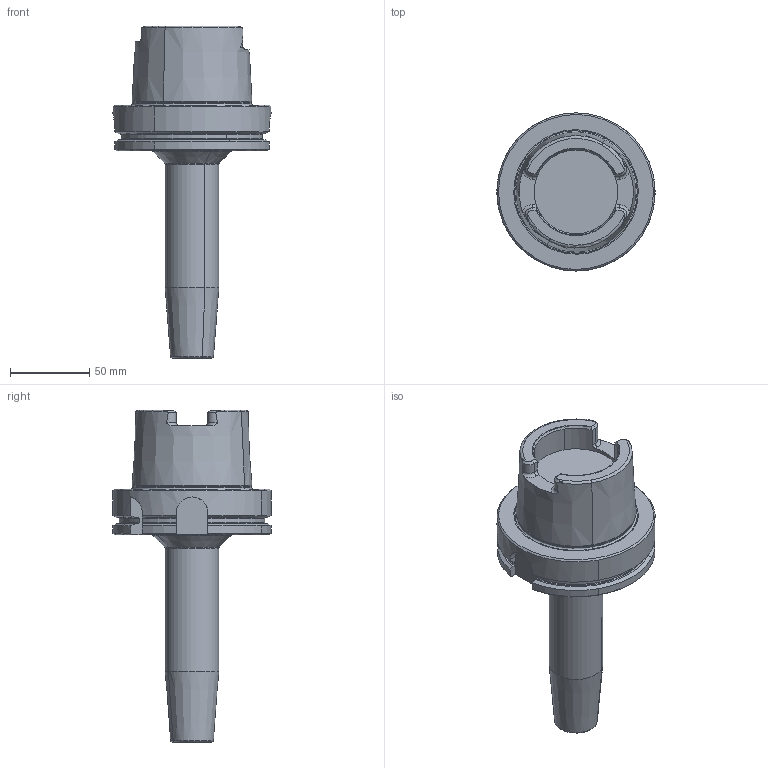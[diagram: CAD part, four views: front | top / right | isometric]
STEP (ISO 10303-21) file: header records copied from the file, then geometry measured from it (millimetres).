
FILE_DESCRIPTION(('CATIA V5 STEP Exchange','CAx-IF Rec.Pracs.--- Model Styling and Organization---1.2---2011-12-15'),'2;1');
FILE_NAME('I:\isr\design\admin8\users\tamer_s\4504233 L.stp','2014-04-03T11:04:00+00:00',('none'),('none'),'CATIA Version 5 Release 21 SP 5 (IN-10)','CATIA V5 STEP AP214','none');
FILE_SCHEMA(('AUTOMOTIVE_DESIGN { 1 0 10303 214 1 1 1 1 }'));
Length unit declared in the file: millimetre
Products named in the file (1): 60975469_0 Holder-Tool HSK A 100 SRKIN 14X160
Bounding box: 99.99 x 100 x 210 mm (x, y, z)
Volume: 499745.9 mm3; surface area: 51913.3 mm2
Topology: 1 solids, 1 shells, 137 faces, 350 edges, 218 vertices
Faces by surface type: plane 37, cone 35, cylinder 33, torus 32
Entity records: 4233 total; most frequent: CARTESIAN_POINT 1292, ORIENTED_EDGE 700, DIRECTION 439, EDGE_CURVE 350, AXIS2_PLACEMENT_3D 241, VERTEX_POINT 218, CIRCLE 159, EDGE_LOOP 140
